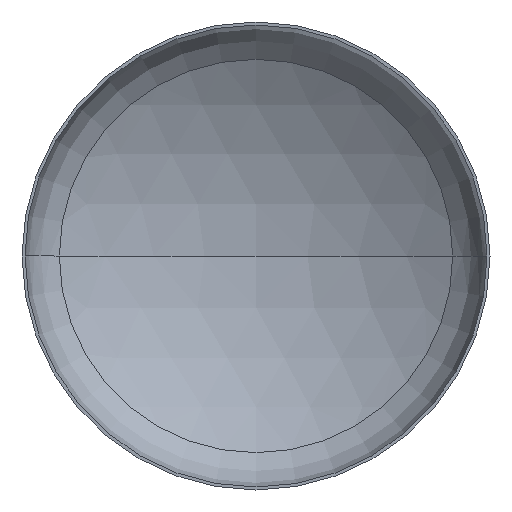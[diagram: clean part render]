
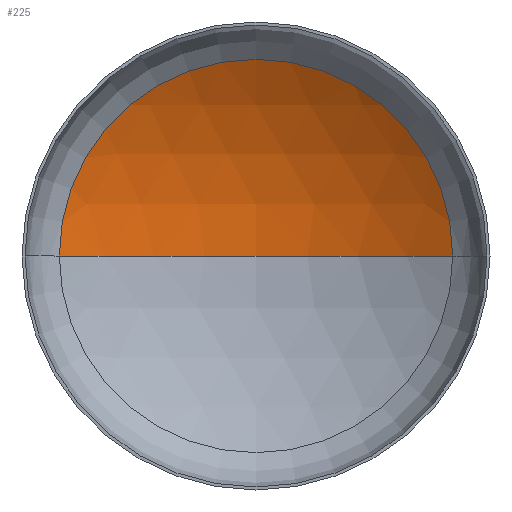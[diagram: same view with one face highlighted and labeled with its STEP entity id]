
A CAD part, front view. The second image highlights one B-rep face of the part: STEP entity #225.
In plain terms, the highlighted spherical face has radius 3600 mm.
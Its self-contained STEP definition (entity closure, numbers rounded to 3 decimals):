
#5 = EDGE_LOOP ( 'NONE', ( #208, #105, #69 ) ) ;
#11 = DIRECTION ( 'NONE',  ( -1., 0., 0. ) ) ;
#13 = DIRECTION ( 'NONE',  ( -1., 0., 0. ) ) ;
#14 = AXIS2_PLACEMENT_3D ( 'NONE', #95, #149, #152 ) ;
#24 = AXIS2_PLACEMENT_3D ( 'NONE', #234, #364, #169 ) ;
#35 = AXIS2_PLACEMENT_3D ( 'NONE', #398, #258, #11 ) ;
#50 = VERTEX_POINT ( 'NONE', #291 ) ;
#63 = VERTEX_POINT ( 'NONE', #264 ) ;
#69 = ORIENTED_EDGE ( 'NONE', *, *, #361, .T. ) ;
#70 = AXIS2_PLACEMENT_3D ( 'NONE', #331, #156, #13 ) ;
#83 = VERTEX_POINT ( 'NONE', #238 ) ;
#95 = CARTESIAN_POINT ( 'NONE',  ( 0., 681.387, 0. ) ) ;
#105 = ORIENTED_EDGE ( 'NONE', *, *, #350, .T. ) ;
#149 = DIRECTION ( 'NONE',  ( 0., -1., 0. ) ) ;
#152 = DIRECTION ( 'NONE',  ( 1., 0., 0. ) ) ;
#156 = DIRECTION ( 'NONE',  ( 0., 0., -1. ) ) ;
#169 = DIRECTION ( 'NONE',  ( 1., 0., 0. ) ) ;
#181 = FACE_OUTER_BOUND ( 'NONE', #5, .T. ) ;
#208 = ORIENTED_EDGE ( 'NONE', *, *, #354, .F. ) ;
#219 = CIRCLE ( 'NONE', #35, 3600. ) ;
#225 = ADVANCED_FACE ( 'NONE', ( #181 ), #237, .F. ) ;
#234 = CARTESIAN_POINT ( 'NONE',  ( 0., -2381.912, 0. ) ) ;
#237 = SPHERICAL_SURFACE ( 'NONE', #70, 3600. ) ;
#238 = CARTESIAN_POINT ( 'NONE',  ( 1891.084, 681.387, 0. ) ) ;
#258 = DIRECTION ( 'NONE',  ( 0., 0., -1. ) ) ;
#264 = CARTESIAN_POINT ( 'NONE',  ( 0., 1218.088, 0. ) ) ;
#291 = CARTESIAN_POINT ( 'NONE',  ( -1891.084, 681.387, 0. ) ) ;
#331 = CARTESIAN_POINT ( 'NONE',  ( 0., -2381.912, 0. ) ) ;
#342 = CIRCLE ( 'NONE', #24, 3600. ) ;
#350 = EDGE_CURVE ( 'NONE', #63, #83, #219, .T. ) ;
#354 = EDGE_CURVE ( 'NONE', #63, #50, #342, .T. ) ;
#361 = EDGE_CURVE ( 'NONE', #83, #50, #394, .T. ) ;
#364 = DIRECTION ( 'NONE',  ( 0., 0., 1. ) ) ;
#394 = CIRCLE ( 'NONE', #14, 1891.084 ) ;
#398 = CARTESIAN_POINT ( 'NONE',  ( 0., -2381.912, 0. ) ) ;
